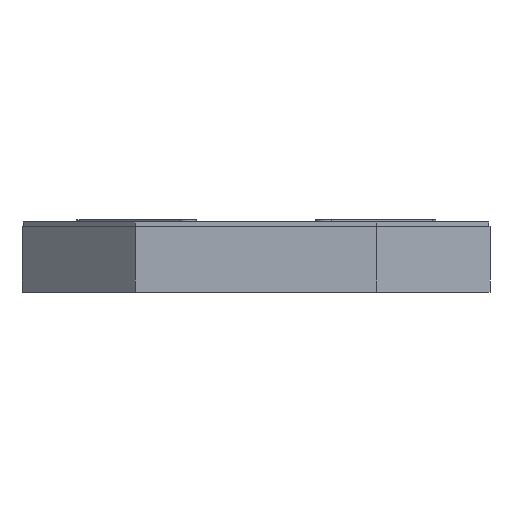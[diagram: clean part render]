
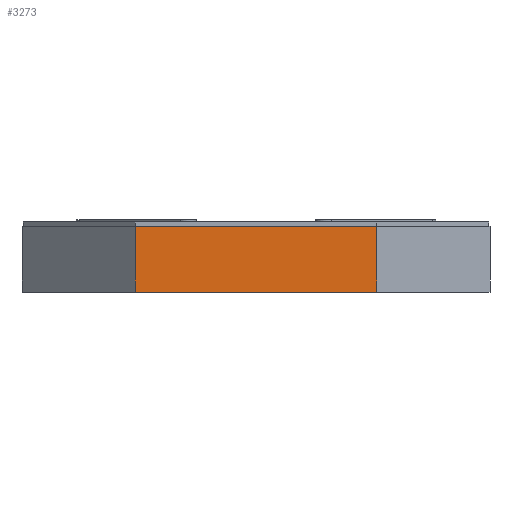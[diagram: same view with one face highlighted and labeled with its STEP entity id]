
A CAD part, front view. The second image highlights one B-rep face of the part: STEP entity #3273.
In plain terms, the highlighted planar face has unit normal (0, -1, 0).
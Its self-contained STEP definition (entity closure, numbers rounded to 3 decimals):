
#206 = LINE ( 'NONE', #9983, #9861 ) ;
#1027 = VECTOR ( 'NONE', #7983, 1000. ) ;
#1336 = EDGE_CURVE ( 'NONE', #6608, #6278, #206, .T. ) ;
#1533 = ORIENTED_EDGE ( 'NONE', *, *, #3417, .F. ) ;
#1584 = CARTESIAN_POINT ( 'NONE',  ( 56.877, -110., 31. ) ) ;
#1810 = EDGE_CURVE ( 'NONE', #9604, #5620, #11272, .T. ) ;
#2038 = DIRECTION ( 'NONE',  ( 1., 0., 0. ) ) ;
#2194 = DIRECTION ( 'NONE',  ( 0., 0., -1. ) ) ;
#2260 = AXIS2_PLACEMENT_3D ( 'NONE', #6522, #3932, #3104 ) ;
#2480 = VECTOR ( 'NONE', #2038, 1000. ) ;
#2549 = VECTOR ( 'NONE', #8019, 1000. ) ;
#2740 = CARTESIAN_POINT ( 'NONE',  ( 56.877, -110., 0. ) ) ;
#3104 = DIRECTION ( 'NONE',  ( 0., 0., 1. ) ) ;
#3273 = ADVANCED_FACE ( 'NONE', ( #6092 ), #5329, .F. ) ;
#3417 = EDGE_CURVE ( 'NONE', #6608, #5620, #4175, .T. ) ;
#3611 = ORIENTED_EDGE ( 'NONE', *, *, #8041, .T. ) ;
#3932 = DIRECTION ( 'NONE',  ( 0., 1., 0. ) ) ;
#3950 = CARTESIAN_POINT ( 'NONE',  ( -56.877, -110., 31. ) ) ;
#4175 = LINE ( 'NONE', #7869, #2549 ) ;
#5296 = CARTESIAN_POINT ( 'NONE',  ( 56.877, -110., 31. ) ) ;
#5329 = PLANE ( 'NONE',  #2260 ) ;
#5369 = EDGE_LOOP ( 'NONE', ( #1533, #7496, #3611, #10713 ) ) ;
#5620 = VERTEX_POINT ( 'NONE', #1584 ) ;
#6092 = FACE_OUTER_BOUND ( 'NONE', #5369, .T. ) ;
#6278 = VERTEX_POINT ( 'NONE', #10743 ) ;
#6522 = CARTESIAN_POINT ( 'NONE',  ( -110., -110., 31. ) ) ;
#6608 = VERTEX_POINT ( 'NONE', #3950 ) ;
#7120 = LINE ( 'NONE', #7404, #2480 ) ;
#7404 = CARTESIAN_POINT ( 'NONE',  ( -110., -110., 0. ) ) ;
#7496 = ORIENTED_EDGE ( 'NONE', *, *, #1336, .T. ) ;
#7869 = CARTESIAN_POINT ( 'NONE',  ( -110., -110., 31. ) ) ;
#7983 = DIRECTION ( 'NONE',  ( 0., 0., 1. ) ) ;
#8019 = DIRECTION ( 'NONE',  ( 1., 0., 0. ) ) ;
#8041 = EDGE_CURVE ( 'NONE', #6278, #9604, #7120, .T. ) ;
#9604 = VERTEX_POINT ( 'NONE', #2740 ) ;
#9861 = VECTOR ( 'NONE', #2194, 1000. ) ;
#9983 = CARTESIAN_POINT ( 'NONE',  ( -56.877, -110., 31. ) ) ;
#10713 = ORIENTED_EDGE ( 'NONE', *, *, #1810, .T. ) ;
#10743 = CARTESIAN_POINT ( 'NONE',  ( -56.877, -110., 0. ) ) ;
#11272 = LINE ( 'NONE', #5296, #1027 ) ;
